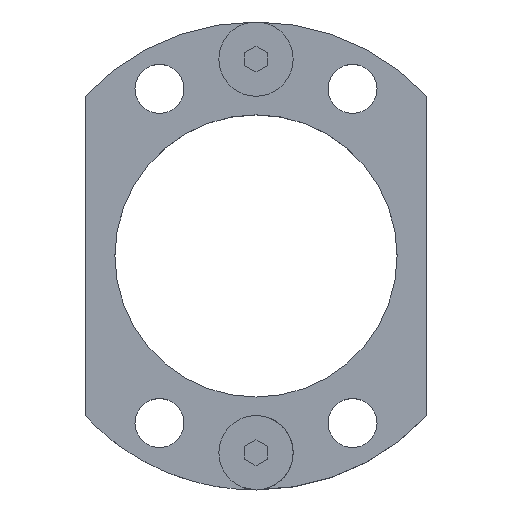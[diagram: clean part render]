
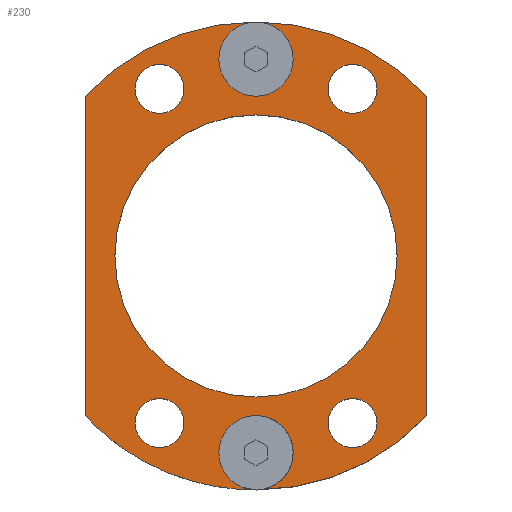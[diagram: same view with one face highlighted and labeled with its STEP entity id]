
A CAD part, top view. The second image highlights one B-rep face of the part: STEP entity #230.
In plain terms, the highlighted planar face has unit normal (0, 0, 1).
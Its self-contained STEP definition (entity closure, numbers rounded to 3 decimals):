
#143=FACE_BOUND('',#445,.T.);
#144=FACE_BOUND('',#446,.T.);
#145=FACE_BOUND('',#447,.T.);
#146=FACE_BOUND('',#448,.T.);
#147=FACE_BOUND('',#449,.T.);
#148=FACE_BOUND('',#450,.T.);
#149=FACE_BOUND('',#451,.T.);
#150=FACE_BOUND('',#452,.T.);
#164=PLANE('',#1603);
#230=ADVANCED_FACE('',(#143,#144,#145,#146,#147,#148,#149,#150),#164,.T.);
#445=EDGE_LOOP('',(#809,#810,#811,#812));
#446=EDGE_LOOP('',(#813,#814));
#447=EDGE_LOOP('',(#815,#816));
#448=EDGE_LOOP('',(#817,#818));
#449=EDGE_LOOP('',(#819,#820));
#450=EDGE_LOOP('',(#821,#822));
#451=EDGE_LOOP('',(#823,#824));
#452=EDGE_LOOP('',(#825,#826));
#524=CIRCLE('',#1540,31.5);
#526=CIRCLE('',#1544,31.5);
#528=CIRCLE('',#1548,3.3);
#530=CIRCLE('',#1551,3.3);
#532=CIRCLE('',#1554,3.3);
#534=CIRCLE('',#1557,3.3);
#536=CIRCLE('',#1560,3.3);
#538=CIRCLE('',#1563,3.3);
#540=CIRCLE('',#1566,3.3);
#542=CIRCLE('',#1569,3.3);
#547=CIRCLE('',#1577,5.);
#548=CIRCLE('',#1579,5.);
#550=CIRCLE('',#1582,19.);
#552=CIRCLE('',#1585,19.);
#561=CIRCLE('',#1601,5.);
#562=CIRCLE('',#1602,5.);
#809=ORIENTED_EDGE('',*,*,#1149,.T.);
#810=ORIENTED_EDGE('',*,*,#1158,.T.);
#811=ORIENTED_EDGE('',*,*,#1155,.T.);
#812=ORIENTED_EDGE('',*,*,#1152,.T.);
#813=ORIENTED_EDGE('',*,*,#1211,.F.);
#814=ORIENTED_EDGE('',*,*,#1212,.F.);
#815=ORIENTED_EDGE('',*,*,#1192,.F.);
#816=ORIENTED_EDGE('',*,*,#1190,.F.);
#817=ORIENTED_EDGE('',*,*,#1161,.T.);
#818=ORIENTED_EDGE('',*,*,#1164,.T.);
#819=ORIENTED_EDGE('',*,*,#1167,.T.);
#820=ORIENTED_EDGE('',*,*,#1170,.T.);
#821=ORIENTED_EDGE('',*,*,#1173,.T.);
#822=ORIENTED_EDGE('',*,*,#1176,.T.);
#823=ORIENTED_EDGE('',*,*,#1179,.T.);
#824=ORIENTED_EDGE('',*,*,#1182,.T.);
#825=ORIENTED_EDGE('',*,*,#1195,.T.);
#826=ORIENTED_EDGE('',*,*,#1198,.T.);
#1005=VERTEX_POINT('',#2226);
#1006=VERTEX_POINT('',#2228);
#1008=VERTEX_POINT('',#2234);
#1010=VERTEX_POINT('',#2240);
#1013=VERTEX_POINT('',#2250);
#1014=VERTEX_POINT('',#2252);
#1017=VERTEX_POINT('',#2262);
#1018=VERTEX_POINT('',#2264);
#1021=VERTEX_POINT('',#2274);
#1022=VERTEX_POINT('',#2276);
#1025=VERTEX_POINT('',#2286);
#1026=VERTEX_POINT('',#2288);
#1031=VERTEX_POINT('',#2307);
#1032=VERTEX_POINT('',#2309);
#1035=VERTEX_POINT('',#2318);
#1036=VERTEX_POINT('',#2320);
#1045=VERTEX_POINT('',#2353);
#1046=VERTEX_POINT('',#2354);
#1149=EDGE_CURVE('',#1006,#1005,#524,.T.);
#1152=EDGE_CURVE('',#1008,#1006,#1306,.T.);
#1155=EDGE_CURVE('',#1010,#1008,#526,.T.);
#1158=EDGE_CURVE('',#1005,#1010,#1310,.T.);
#1161=EDGE_CURVE('',#1014,#1013,#528,.T.);
#1164=EDGE_CURVE('',#1013,#1014,#530,.T.);
#1167=EDGE_CURVE('',#1018,#1017,#532,.T.);
#1170=EDGE_CURVE('',#1017,#1018,#534,.T.);
#1173=EDGE_CURVE('',#1022,#1021,#536,.T.);
#1176=EDGE_CURVE('',#1021,#1022,#538,.T.);
#1179=EDGE_CURVE('',#1026,#1025,#540,.T.);
#1182=EDGE_CURVE('',#1025,#1026,#542,.T.);
#1190=EDGE_CURVE('',#1031,#1032,#547,.T.);
#1192=EDGE_CURVE('',#1032,#1031,#548,.T.);
#1195=EDGE_CURVE('',#1036,#1035,#550,.T.);
#1198=EDGE_CURVE('',#1035,#1036,#552,.T.);
#1211=EDGE_CURVE('',#1045,#1046,#561,.T.);
#1212=EDGE_CURVE('',#1046,#1045,#562,.T.);
#1306=LINE('',#2233,#1406);
#1310=LINE('',#2244,#1410);
#1406=VECTOR('',#1805,1.);
#1410=VECTOR('',#1817,1.);
#1540=AXIS2_PLACEMENT_3D('',#2227,#1799,#1800);
#1544=AXIS2_PLACEMENT_3D('',#2239,#1811,#1812);
#1548=AXIS2_PLACEMENT_3D('',#2251,#1823,#1824);
#1551=AXIS2_PLACEMENT_3D('',#2256,#1830,#1831);
#1554=AXIS2_PLACEMENT_3D('',#2263,#1837,#1838);
#1557=AXIS2_PLACEMENT_3D('',#2268,#1844,#1845);
#1560=AXIS2_PLACEMENT_3D('',#2275,#1851,#1852);
#1563=AXIS2_PLACEMENT_3D('',#2280,#1858,#1859);
#1566=AXIS2_PLACEMENT_3D('',#2287,#1865,#1866);
#1569=AXIS2_PLACEMENT_3D('',#2292,#1872,#1873);
#1577=AXIS2_PLACEMENT_3D('',#2308,#1891,#1892);
#1579=AXIS2_PLACEMENT_3D('',#2312,#1896,#1897);
#1582=AXIS2_PLACEMENT_3D('',#2319,#1903,#1904);
#1585=AXIS2_PLACEMENT_3D('',#2324,#1910,#1911);
#1601=AXIS2_PLACEMENT_3D('',#2352,#1946,#1947);
#1602=AXIS2_PLACEMENT_3D('',#2355,#1948,#1949);
#1603=AXIS2_PLACEMENT_3D('',#2356,#1950,#1951);
#1799=DIRECTION('',(0.,0.,1.));
#1800=DIRECTION('',(0.776,0.631,0.));
#1805=DIRECTION('',(0.,1.,0.));
#1811=DIRECTION('',(0.,0.,1.));
#1812=DIRECTION('',(-0.776,-0.631,0.));
#1817=DIRECTION('',(0.,-1.,0.));
#1823=DIRECTION('',(0.,0.,-1.));
#1824=DIRECTION('',(-1.,0.,0.));
#1830=DIRECTION('',(0.,0.,-1.));
#1831=DIRECTION('',(1.,0.,0.));
#1837=DIRECTION('',(0.,0.,-1.));
#1838=DIRECTION('',(-1.,0.,0.));
#1844=DIRECTION('',(0.,0.,-1.));
#1845=DIRECTION('',(1.,0.,0.));
#1851=DIRECTION('',(0.,0.,-1.));
#1852=DIRECTION('',(-1.,0.,0.));
#1858=DIRECTION('',(0.,0.,-1.));
#1859=DIRECTION('',(1.,0.,0.));
#1865=DIRECTION('',(0.,0.,-1.));
#1866=DIRECTION('',(-1.,0.,0.));
#1872=DIRECTION('',(0.,0.,-1.));
#1873=DIRECTION('',(1.,0.,0.));
#1891=DIRECTION('',(0.,0.,1.));
#1892=DIRECTION('',(1.,0.,0.));
#1896=DIRECTION('',(0.,0.,1.));
#1897=DIRECTION('',(-1.,0.,0.));
#1903=DIRECTION('',(0.,0.,-1.));
#1904=DIRECTION('',(-1.,0.,0.));
#1910=DIRECTION('',(0.,0.,-1.));
#1911=DIRECTION('',(1.,0.,0.));
#1946=DIRECTION('',(0.,0.,1.));
#1947=DIRECTION('',(1.,0.,0.));
#1948=DIRECTION('',(0.,0.,1.));
#1949=DIRECTION('',(1.,0.,0.));
#1950=DIRECTION('',(0.,0.,1.));
#1951=DIRECTION('',(0.683,-0.73,0.));
#2226=CARTESIAN_POINT('',(-23.,21.523,11.));
#2227=CARTESIAN_POINT('',(0.,0.,11.));
#2228=CARTESIAN_POINT('',(23.,21.523,11.));
#2233=CARTESIAN_POINT('',(23.,21.523,11.));
#2234=CARTESIAN_POINT('',(23.,-21.523,11.));
#2239=CARTESIAN_POINT('',(0.,0.,11.));
#2240=CARTESIAN_POINT('',(-23.,-21.523,11.));
#2244=CARTESIAN_POINT('',(-23.,21.523,11.));
#2250=CARTESIAN_POINT('',(13.,19.2,11.));
#2251=CARTESIAN_POINT('',(13.,22.5,11.));
#2252=CARTESIAN_POINT('',(13.,25.8,11.));
#2256=CARTESIAN_POINT('',(13.,22.5,11.));
#2262=CARTESIAN_POINT('',(-13.,19.2,11.));
#2263=CARTESIAN_POINT('',(-13.,22.5,11.));
#2264=CARTESIAN_POINT('',(-13.,25.8,11.));
#2268=CARTESIAN_POINT('',(-13.,22.5,11.));
#2274=CARTESIAN_POINT('',(13.,-25.8,11.));
#2275=CARTESIAN_POINT('',(13.,-22.5,11.));
#2276=CARTESIAN_POINT('',(13.,-19.2,11.));
#2280=CARTESIAN_POINT('',(13.,-22.5,11.));
#2286=CARTESIAN_POINT('',(-13.,-25.8,11.));
#2287=CARTESIAN_POINT('',(-13.,-22.5,11.));
#2288=CARTESIAN_POINT('',(-13.,-19.2,11.));
#2292=CARTESIAN_POINT('',(-13.,-22.5,11.));
#2307=CARTESIAN_POINT('',(0.,-21.5,11.));
#2308=CARTESIAN_POINT('',(0.,-26.5,11.));
#2309=CARTESIAN_POINT('',(0.,-31.5,11.));
#2312=CARTESIAN_POINT('',(0.,-26.5,11.));
#2318=CARTESIAN_POINT('',(0.,-19.,11.));
#2319=CARTESIAN_POINT('',(0.,0.,11.));
#2320=CARTESIAN_POINT('',(0.,19.,11.));
#2324=CARTESIAN_POINT('',(0.,0.,11.));
#2352=CARTESIAN_POINT('',(0.,26.5,11.));
#2353=CARTESIAN_POINT('',(0.,21.5,11.));
#2354=CARTESIAN_POINT('',(0.,31.5,11.));
#2355=CARTESIAN_POINT('',(0.,26.5,11.));
#2356=CARTESIAN_POINT('',(23.,21.523,11.));
